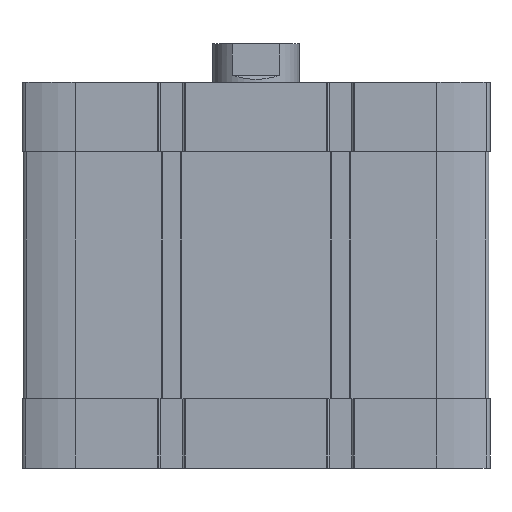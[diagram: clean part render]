
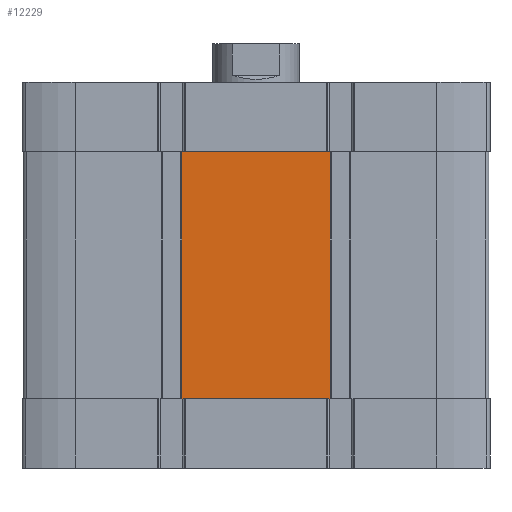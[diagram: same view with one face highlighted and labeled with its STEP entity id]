
A CAD part, front view. The second image highlights one B-rep face of the part: STEP entity #12229.
In plain terms, the highlighted planar face has unit normal (0, -1, 0).
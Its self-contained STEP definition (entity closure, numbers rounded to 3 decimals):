
#260 = VERTEX_POINT ( 'NONE', #9448 ) ;
#481 = EDGE_CURVE ( 'NONE', #600, #9506, #12561, .T. ) ;
#600 = VERTEX_POINT ( 'NONE', #8203 ) ;
#657 = CARTESIAN_POINT ( 'NONE',  ( 20.687, -67., -20. ) ) ;
#816 = VERTEX_POINT ( 'NONE', #1835 ) ;
#836 = EDGE_CURVE ( 'NONE', #2712, #13181, #16521, .T. ) ;
#1095 = EDGE_CURVE ( 'NONE', #9877, #816, #5477, .T. ) ;
#1274 = VECTOR ( 'NONE', #5829, 1000. ) ;
#1346 = LINE ( 'NONE', #6657, #16246 ) ;
#1835 = CARTESIAN_POINT ( 'NONE',  ( -20.687, -67., -20. ) ) ;
#2046 = DIRECTION ( 'NONE',  ( 1., 0., 0. ) ) ;
#2075 = ORIENTED_EDGE ( 'NONE', *, *, #10436, .T. ) ;
#2479 = DIRECTION ( 'NONE',  ( 0., 0., 1. ) ) ;
#2712 = VERTEX_POINT ( 'NONE', #657 ) ;
#2780 = CARTESIAN_POINT ( 'NONE',  ( -67., -67., -91. ) ) ;
#2894 = EDGE_CURVE ( 'NONE', #14524, #600, #16648, .T. ) ;
#3360 = VECTOR ( 'NONE', #4173, 1000. ) ;
#4173 = DIRECTION ( 'NONE',  ( 1., 0., 0. ) ) ;
#4225 = LINE ( 'NONE', #7008, #7749 ) ;
#4300 = CARTESIAN_POINT ( 'NONE',  ( -21.3, -67., -91. ) ) ;
#4620 = CARTESIAN_POINT ( 'NONE',  ( 21.3, -67., -20. ) ) ;
#4949 = ORIENTED_EDGE ( 'NONE', *, *, #2894, .T. ) ;
#5477 = LINE ( 'NONE', #10775, #3360 ) ;
#5560 = ORIENTED_EDGE ( 'NONE', *, *, #836, .F. ) ;
#5666 = EDGE_CURVE ( 'NONE', #260, #13181, #16910, .T. ) ;
#5749 = CARTESIAN_POINT ( 'NONE',  ( -67., -67., -20. ) ) ;
#5829 = DIRECTION ( 'NONE',  ( 1., 0., 0. ) ) ;
#6387 = VECTOR ( 'NONE', #2046, 1000. ) ;
#6434 = FACE_OUTER_BOUND ( 'NONE', #16064, .T. ) ;
#6657 = CARTESIAN_POINT ( 'NONE',  ( -67., -67., -91. ) ) ;
#7008 = CARTESIAN_POINT ( 'NONE',  ( -21.3, -67., -20. ) ) ;
#7083 = LINE ( 'NONE', #4300, #11795 ) ;
#7249 = DIRECTION ( 'NONE',  ( 0., 0., 1. ) ) ;
#7749 = VECTOR ( 'NONE', #14744, 1000. ) ;
#8097 = DIRECTION ( 'NONE',  ( 0., 0., -1. ) ) ;
#8203 = CARTESIAN_POINT ( 'NONE',  ( -20.687, -67., -91. ) ) ;
#8284 = ORIENTED_EDGE ( 'NONE', *, *, #481, .T. ) ;
#8543 = ORIENTED_EDGE ( 'NONE', *, *, #5666, .T. ) ;
#9090 = CARTESIAN_POINT ( 'NONE',  ( -67., -67., -91. ) ) ;
#9117 = CARTESIAN_POINT ( 'NONE',  ( 20.687, -67., -91. ) ) ;
#9395 = ORIENTED_EDGE ( 'NONE', *, *, #10507, .F. ) ;
#9448 = CARTESIAN_POINT ( 'NONE',  ( 21.3, -67., -91. ) ) ;
#9506 = VERTEX_POINT ( 'NONE', #9117 ) ;
#9877 = VERTEX_POINT ( 'NONE', #15447 ) ;
#10436 = EDGE_CURVE ( 'NONE', #9506, #260, #1346, .T. ) ;
#10507 = EDGE_CURVE ( 'NONE', #14524, #9877, #7083, .T. ) ;
#10775 = CARTESIAN_POINT ( 'NONE',  ( -67., -67., -20. ) ) ;
#10776 = PLANE ( 'NONE',  #11075 ) ;
#11075 = AXIS2_PLACEMENT_3D ( 'NONE', #2780, #17218, #8097 ) ;
#11217 = VECTOR ( 'NONE', #11846, 1000. ) ;
#11786 = CARTESIAN_POINT ( 'NONE',  ( 21.3, -67., -91. ) ) ;
#11795 = VECTOR ( 'NONE', #7249, 1000. ) ;
#11846 = DIRECTION ( 'NONE',  ( 1., 0., 0. ) ) ;
#12229 = ADVANCED_FACE ( 'NONE', ( #6434 ), #10776, .T. ) ;
#12561 = LINE ( 'NONE', #17152, #11217 ) ;
#12618 = VECTOR ( 'NONE', #2479, 1000. ) ;
#13181 = VERTEX_POINT ( 'NONE', #4620 ) ;
#13600 = DIRECTION ( 'NONE',  ( 1., 0., 0. ) ) ;
#14181 = ORIENTED_EDGE ( 'NONE', *, *, #1095, .F. ) ;
#14524 = VERTEX_POINT ( 'NONE', #17094 ) ;
#14589 = ORIENTED_EDGE ( 'NONE', *, *, #14643, .F. ) ;
#14643 = EDGE_CURVE ( 'NONE', #816, #2712, #4225, .T. ) ;
#14744 = DIRECTION ( 'NONE',  ( 1., 0., 0. ) ) ;
#15447 = CARTESIAN_POINT ( 'NONE',  ( -21.3, -67., -20. ) ) ;
#16064 = EDGE_LOOP ( 'NONE', ( #9395, #4949, #8284, #2075, #8543, #5560, #14589, #14181 ) ) ;
#16246 = VECTOR ( 'NONE', #13600, 1000. ) ;
#16521 = LINE ( 'NONE', #5749, #1274 ) ;
#16648 = LINE ( 'NONE', #9090, #6387 ) ;
#16910 = LINE ( 'NONE', #11786, #12618 ) ;
#17094 = CARTESIAN_POINT ( 'NONE',  ( -21.3, -67., -91. ) ) ;
#17152 = CARTESIAN_POINT ( 'NONE',  ( -21.3, -67., -91. ) ) ;
#17218 = DIRECTION ( 'NONE',  ( 0., -1., 0. ) ) ;
